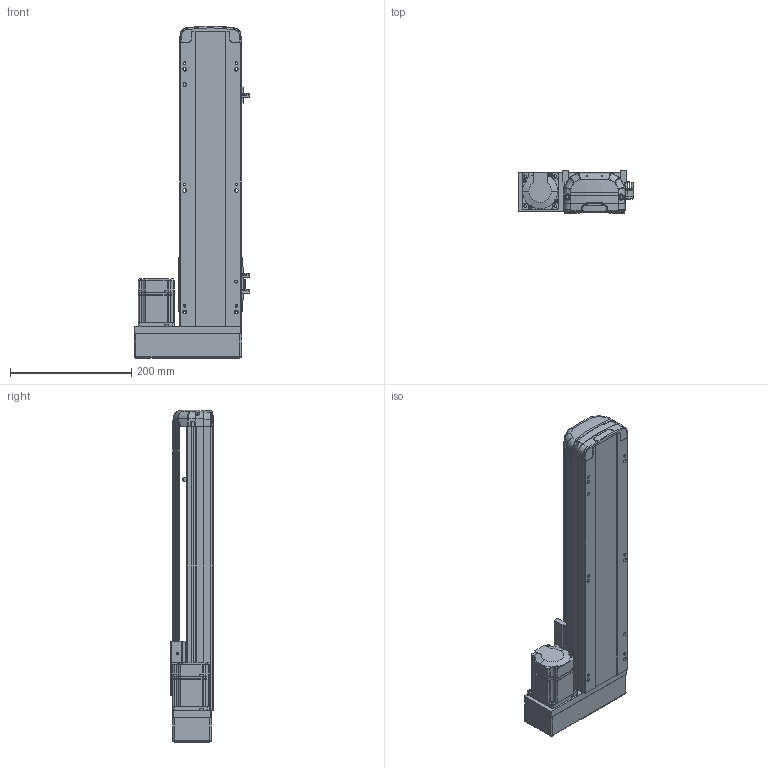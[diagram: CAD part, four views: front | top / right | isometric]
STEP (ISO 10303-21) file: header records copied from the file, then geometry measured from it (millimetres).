
FILE_DESCRIPTION (( 'STEP AP214' ), '1' );
FILE_NAME ('RTH10-XX-300-L-M20-C4.STEP', '2025-10-25T03:44:38', ( 'Microsoft' ), ( 'Microsoft' ), 'SwSTEP 2.0', 'SolidWorks 2018', '' );
FILE_SCHEMA (( 'AUTOMOTIVE_DESIGN' ));
Length unit declared in the file: millimetre
Products named in the file (10): N_RTH13-L-012覜茼え俋离^RTH10-XX-XX-L-M20-C4; N_RTH12-M-011P-臏倰第菁釱^RTH10-XX-XX-L-M20-C4; N_RTH12-L-008萇儂啣^RTH10-XX-XX-L-M20-C4; N_RTH12-GY-004-賑釱^RTH10-XX-XX-L-M20-C4; N_OMRON EE-SX672 传感器^RTH10-XX-XX-L-M20-C4; N_RTH12-GY-001P^RTH10-XX-XX-L-M20-C4; N_200W-1^RTH10-XX-XX-L-M20-C4; RTH10-XX-300-L-M20-C4; N_RTH12-L-018-裔赽^RTH10-XX-XX-L-M20-C4; N_RTH12-M-007P-奻裔^RTH10-XX-XX-L-M20-C4
Assembly tree (11 placements, depth 2):
  RTH10-XX-300-L-M20-C4
    N_RTH12-M-011P-臏倰第菁釱^RTH10-XX-XX-L-M20-C4
    N_RTH13-L-012覜茼え俋离^RTH10-XX-XX-L-M20-C4
    N_OMRON EE-SX672 传感器^RTH10-XX-XX-L-M20-C4  x3
    N_200W-1^RTH10-XX-XX-L-M20-C4
    N_RTH12-M-007P-奻裔^RTH10-XX-XX-L-M20-C4
    N_RTH12-L-008萇儂啣^RTH10-XX-XX-L-M20-C4
    N_RTH12-L-018-裔赽^RTH10-XX-XX-L-M20-C4
    N_RTH12-GY-004-賑釱^RTH10-XX-XX-L-M20-C4
    N_RTH12-GY-001P^RTH10-XX-XX-L-M20-C4
Bounding box: 190 x 70 x 547.31 mm (x, y, z)
Volume: 2781198.9 mm3; surface area: 431375 mm2
Topology: 10 solids, 12 shells, 1936 faces, 5377 edges, 3529 vertices
Faces by surface type: plane 975, bspline 472, cylinder 454, cone 29, sphere 4, torus 2
Entity records: 57863 total; most frequent: CARTESIAN_POINT 22933, ORIENTED_EDGE 7826, DIRECTION 6011, EDGE_CURVE 3919, VERTEX_POINT 2573, VECTOR 2117, LINE 2117, AXIS2_PLACEMENT_3D 1947
